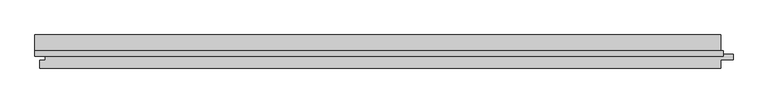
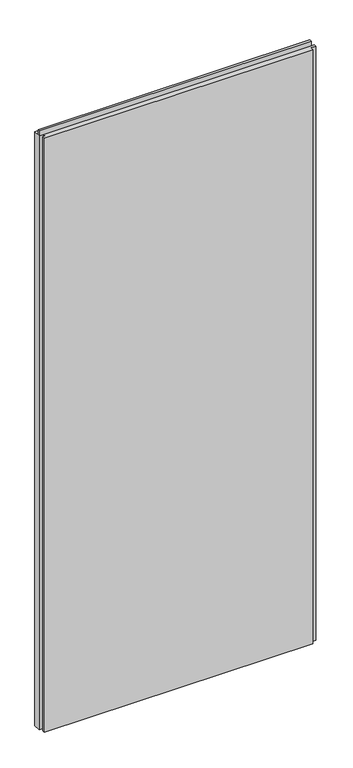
"""IFC4 building model written with IfcOpenShell, lengths in millimetres: plate geometry, Trimo_Qbiss Screen_Normal Panel-VERTICAL : HR - FB."""

from ifc_helpers import new_model, si_unit, frame, origin, place, context, project, spatial, polyline, outline, extrude, source, transform, mapped, element, save


def plate_a8a0d83f(model_context):
    return source(origin(), model_context, "Body", "SweptSolid", [
        extrude(outline(polyline([(-513.0, 93.9), (-513.0, 102.6), (513.0, 102.6), (513.0, 93.9), (-513.0, 93.9)])), frame((0.0, 0.0, 2390.5), z_axis=(0.0, 0.0, 1.0), x_axis=(1.0, 0.0, 0.0)), (0.0, 0.0, 1.0), 19.0),
        extrude(outline(polyline([(509.0, 97.0), (527.5, 97.0), (527.5, 89.0), (509.0, 89.0), (509.0, 76.0), (-506.0, 76.0), (-506.0, 88.0), (-497.5, 88.0), (-497.5, 98.0), (-513.0, 98.0), (-513.0, 126.0), (509.0, 126.0), (509.0, 97.0)])), frame((0.0, 0.0, 12.5), z_axis=(0.0, 0.0, 1.0), x_axis=(1.0, 0.0, 0.0)), (0.0, 0.0, 1.0), 2375.0),
    ])


if __name__ == "__main__":
    model = new_model("IFC4")
    model_context = context("Model", 3, world=origin())
    ifc_project = project(units=[si_unit("LENGTHUNIT", "METRE", prefix="MILLI")], contexts=[model_context])
    site = spatial("IfcSite", under=ifc_project)
    building = spatial("IfcBuilding", under=site)
    placement = place(None, origin())
    plate_shape = plate_a8a0d83f(model_context)
    element("IfcPlate", 1, ObjectType="Trimo_Qbiss Screen_Normal Panel-VERTICAL : HR - FB", at=placement, inside=building, context=model_context, shape_type="MappedRepresentation", body=[
        mapped(plate_shape, transform((0.0, 0.0, 0.0), x_axis=(1.0, 0.0, 0.0), y_axis=(0.0, 1.0, 0.0), z_axis=(0.0, 0.0, 1.0))),
    ])
    save(model, "model.ifc")
